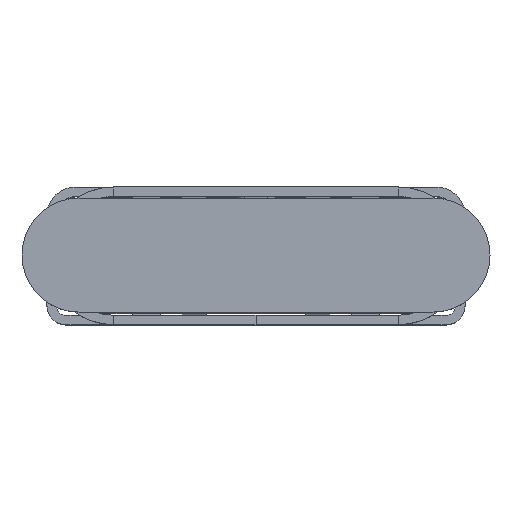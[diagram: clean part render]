
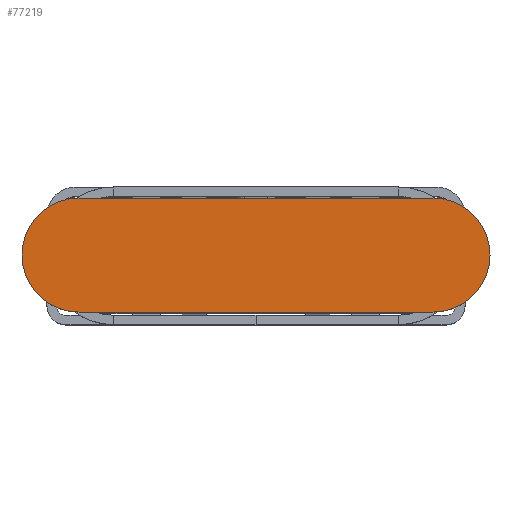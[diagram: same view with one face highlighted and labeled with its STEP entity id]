
A CAD part, top view. The second image highlights one B-rep face of the part: STEP entity #77219.
In plain terms, the highlighted planar face has unit normal (0, 0, 1).
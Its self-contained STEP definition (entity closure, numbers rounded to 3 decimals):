
#76514=DIRECTION('',(0.,1.,0.));
#76515=VECTOR('',#76514,7.45);
#76516=CARTESIAN_POINT('',(-10.205,36.833,
-0.003));
#76517=LINE('',#76516,#76515);
#76518=CARTESIAN_POINT('',(-9.005,44.283,
-0.003));
#76519=DIRECTION('',(0.,0.,-1.));
#76520=DIRECTION('',(-1.,0.,0.));
#76521=AXIS2_PLACEMENT_3D('',#76518,#76519,#76520);
#76523=CARTESIAN_POINT('',(-9.005,44.283,
-0.003));
#76524=DIRECTION('',(0.,0.,-1.));
#76525=DIRECTION('',(0.,1.,0.));
#76526=AXIS2_PLACEMENT_3D('',#76523,#76524,#76525);
#76528=DIRECTION('',(0.,-1.,0.));
#76529=VECTOR('',#76528,7.45);
#76530=CARTESIAN_POINT('',(-7.805,44.283,
-0.003));
#76531=LINE('',#76530,#76529);
#76532=CARTESIAN_POINT('',(-9.005,36.833,
-0.003));
#76533=DIRECTION('',(0.,0.,-1.));
#76534=DIRECTION('',(1.,0.,0.));
#76535=AXIS2_PLACEMENT_3D('',#76532,#76533,#76534);
#76537=CARTESIAN_POINT('',(-9.005,36.833,
-0.003));
#76538=DIRECTION('',(0.,0.,-1.));
#76539=DIRECTION('',(0.,-1.,0.));
#76540=AXIS2_PLACEMENT_3D('',#76537,#76538,#76539);
#76860=CARTESIAN_POINT('',(-7.805,44.283,
-0.003));
#76861=CARTESIAN_POINT('',(-7.805,36.833,
-0.003));
#76862=VERTEX_POINT('',#76860);
#76863=VERTEX_POINT('',#76861);
#76864=CARTESIAN_POINT('',(-10.205,36.833,
-0.003));
#76865=CARTESIAN_POINT('',(-10.205,44.283,
-0.003));
#76866=VERTEX_POINT('',#76864);
#76867=VERTEX_POINT('',#76865);
#76868=CARTESIAN_POINT('',(-9.005,45.483,
-0.003));
#76869=VERTEX_POINT('',#76868);
#76870=CARTESIAN_POINT('',(-9.005,35.633,
-0.003));
#76871=VERTEX_POINT('',#76870);
#77201=CARTESIAN_POINT('',(-7.805,45.483,
-0.003));
#77202=DIRECTION('',(0.,0.,-1.));
#77203=DIRECTION('',(0.,1.,0.));
#77204=AXIS2_PLACEMENT_3D('',#77201,#77202,#77203);
#77205=PLANE('',#77204);
#77207=ORIENTED_EDGE('',*,*,#77206,.T.);
#77209=ORIENTED_EDGE('',*,*,#77208,.T.);
#77211=ORIENTED_EDGE('',*,*,#77210,.T.);
#77212=ORIENTED_EDGE('',*,*,#77191,.T.);
#77214=ORIENTED_EDGE('',*,*,#77213,.T.);
#77216=ORIENTED_EDGE('',*,*,#77215,.T.);
#77217=EDGE_LOOP('',(#77207,#77209,#77211,#77212,#77214,#77216));
#77218=FACE_OUTER_BOUND('',#77217,.F.);
#76522=CIRCLE('',#76521,1.2);
#76527=CIRCLE('',#76526,1.2);
#76536=CIRCLE('',#76535,1.2);
#76541=CIRCLE('',#76540,1.2);
#77191=EDGE_CURVE('',#76862,#76863,#76531,.T.);
#77206=EDGE_CURVE('',#76866,#76867,#76517,.T.);
#77208=EDGE_CURVE('',#76867,#76869,#76522,.T.);
#77210=EDGE_CURVE('',#76869,#76862,#76527,.T.);
#77213=EDGE_CURVE('',#76863,#76871,#76536,.T.);
#77215=EDGE_CURVE('',#76871,#76866,#76541,.T.);
#77219=ADVANCED_FACE('',(#77218),#77205,.F.);
